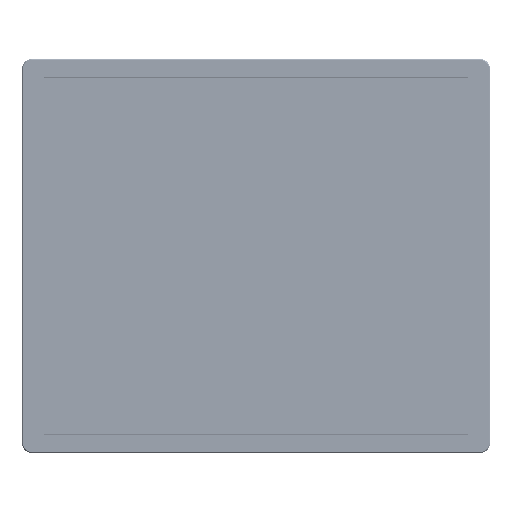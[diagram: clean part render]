
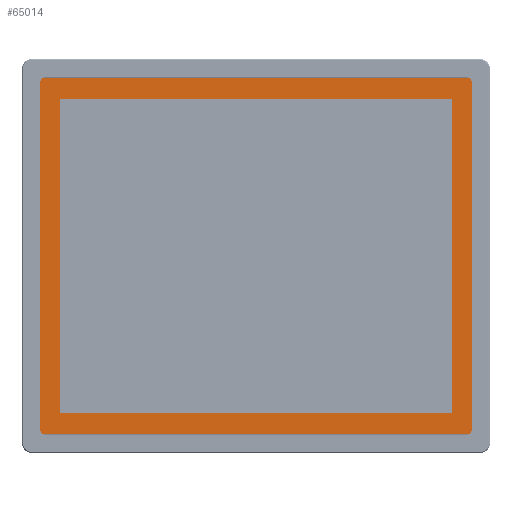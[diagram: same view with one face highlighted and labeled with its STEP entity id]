
A CAD part, top view. The second image highlights one B-rep face of the part: STEP entity #65014.
In plain terms, the highlighted planar face has unit normal (0, 0, 1).
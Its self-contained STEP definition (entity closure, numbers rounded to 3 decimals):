
#5938=LINE('',#623759,#10496);
#5941=LINE('',#623765,#10499);
#5944=LINE('',#623771,#10502);
#5946=LINE('',#623774,#10504);
#5947=LINE('',#623776,#10505);
#5948=LINE('',#623781,#10506);
#5949=LINE('',#623785,#10507);
#5950=LINE('',#623789,#10508);
#10496=VECTOR('',#295500,1.);
#10499=VECTOR('',#295505,1.);
#10502=VECTOR('',#295510,1.);
#10504=VECTOR('',#295514,1.);
#10505=VECTOR('',#295517,1.);
#10506=VECTOR('',#295520,1.);
#10507=VECTOR('',#295523,1.);
#10508=VECTOR('',#295526,1.);
#50313=FACE_BOUND('',#100774,.T.);
#50314=FACE_BOUND('',#100775,.T.);
#65014=ADVANCED_FACE('',(#50313,#50314),#70960,.T.);
#70960=PLANE('',#257239);
#100774=EDGE_LOOP('',(#175964,#175965,#175966,#175967));
#100775=EDGE_LOOP('',(#175968,#175969,#175970,#175971,#175972,#175973,#175974,
#175975));
#175964=ORIENTED_EDGE('',*,*,#237544,.F.);
#175965=ORIENTED_EDGE('',*,*,#237547,.F.);
#175966=ORIENTED_EDGE('',*,*,#237550,.F.);
#175967=ORIENTED_EDGE('',*,*,#237552,.F.);
#175968=ORIENTED_EDGE('',*,*,#237553,.T.);
#175969=ORIENTED_EDGE('',*,*,#237554,.T.);
#175970=ORIENTED_EDGE('',*,*,#237555,.T.);
#175971=ORIENTED_EDGE('',*,*,#237556,.T.);
#175972=ORIENTED_EDGE('',*,*,#237557,.T.);
#175973=ORIENTED_EDGE('',*,*,#237558,.T.);
#175974=ORIENTED_EDGE('',*,*,#237559,.T.);
#175975=ORIENTED_EDGE('',*,*,#237560,.T.);
#199915=VERTEX_POINT('',#623753);
#199918=VERTEX_POINT('',#623758);
#199920=VERTEX_POINT('',#623764);
#199922=VERTEX_POINT('',#623770);
#199923=VERTEX_POINT('',#623777);
#199924=VERTEX_POINT('',#623778);
#199925=VERTEX_POINT('',#623780);
#199926=VERTEX_POINT('',#623782);
#199927=VERTEX_POINT('',#623784);
#199928=VERTEX_POINT('',#623786);
#199929=VERTEX_POINT('',#623788);
#199930=VERTEX_POINT('',#623790);
#237544=EDGE_CURVE('',#199918,#199915,#5938,.T.);
#237547=EDGE_CURVE('',#199920,#199918,#5941,.T.);
#237550=EDGE_CURVE('',#199922,#199920,#5944,.T.);
#237552=EDGE_CURVE('',#199915,#199922,#5946,.T.);
#237553=EDGE_CURVE('',#199923,#199924,#5947,.T.);
#237554=EDGE_CURVE('',#199924,#199925,#240361,.T.);
#237555=EDGE_CURVE('',#199925,#199926,#5948,.T.);
#237556=EDGE_CURVE('',#199926,#199927,#240362,.T.);
#237557=EDGE_CURVE('',#199927,#199928,#5949,.T.);
#237558=EDGE_CURVE('',#199928,#199929,#240363,.T.);
#237559=EDGE_CURVE('',#199929,#199930,#5950,.T.);
#237560=EDGE_CURVE('',#199930,#199923,#240364,.T.);
#240361=CIRCLE('',#257235,4.);
#240362=CIRCLE('',#257236,4.);
#240363=CIRCLE('',#257237,4.);
#240364=CIRCLE('',#257238,4.);
#257235=AXIS2_PLACEMENT_3D('',#623779,#295518,#295519);
#257236=AXIS2_PLACEMENT_3D('',#623783,#295521,#295522);
#257237=AXIS2_PLACEMENT_3D('',#623787,#295524,#295525);
#257238=AXIS2_PLACEMENT_3D('',#623791,#295527,#295528);
#257239=AXIS2_PLACEMENT_3D('',#623792,#295529,#295530);
#295500=DIRECTION('',(1.,0.,0.));
#295505=DIRECTION('',(0.,-1.,0.));
#295510=DIRECTION('',(-1.,0.,0.));
#295514=DIRECTION('',(0.,1.,0.));
#295517=DIRECTION('',(0.,-1.,0.));
#295518=DIRECTION('',(0.,0.,1.));
#295519=DIRECTION('',(1.,0.,0.));
#295520=DIRECTION('',(1.,0.,0.));
#295521=DIRECTION('',(0.,0.,1.));
#295522=DIRECTION('',(1.,0.,0.));
#295523=DIRECTION('',(0.,1.,0.));
#295524=DIRECTION('',(0.,0.,1.));
#295525=DIRECTION('',(1.,0.,0.));
#295526=DIRECTION('',(-1.,0.,0.));
#295527=DIRECTION('',(0.,0.,1.));
#295528=DIRECTION('',(1.,0.,0.));
#295529=DIRECTION('',(0.,0.,1.));
#295530=DIRECTION('',(1.,0.,0.));
#623753=CARTESIAN_POINT('',(145.953,-150.869,11.25));
#623758=CARTESIAN_POINT('',(-231.367,-150.869,11.25));
#623759=CARTESIAN_POINT('',(145.953,-150.869,11.25));
#623764=CARTESIAN_POINT('',(-231.367,151.191,11.25));
#623765=CARTESIAN_POINT('',(-231.367,-150.869,11.25));
#623770=CARTESIAN_POINT('',(145.953,151.191,11.25));
#623771=CARTESIAN_POINT('',(145.953,151.191,11.25));
#623774=CARTESIAN_POINT('',(145.953,-150.869,11.25));
#623776=CARTESIAN_POINT('',(-250.457,171.911,11.25));
#623777=CARTESIAN_POINT('',(-250.457,167.911,11.25));
#623778=CARTESIAN_POINT('',(-250.457,-167.589,11.25));
#623779=CARTESIAN_POINT('',(-246.457,-167.589,11.25));
#623780=CARTESIAN_POINT('',(-246.457,-171.589,11.25));
#623781=CARTESIAN_POINT('',(-250.457,-171.589,11.25));
#623782=CARTESIAN_POINT('',(161.043,-171.589,11.25));
#623783=CARTESIAN_POINT('',(161.043,-167.589,11.25));
#623784=CARTESIAN_POINT('',(165.043,-167.589,11.25));
#623785=CARTESIAN_POINT('',(165.043,171.911,11.25));
#623786=CARTESIAN_POINT('',(165.043,167.911,11.25));
#623787=CARTESIAN_POINT('',(161.043,167.911,11.25));
#623788=CARTESIAN_POINT('',(161.043,171.911,11.25));
#623789=CARTESIAN_POINT('',(-250.457,171.911,11.25));
#623790=CARTESIAN_POINT('',(-246.457,171.911,11.25));
#623791=CARTESIAN_POINT('',(-246.457,167.911,11.25));
#623792=CARTESIAN_POINT('',(145.953,-150.869,11.25));
